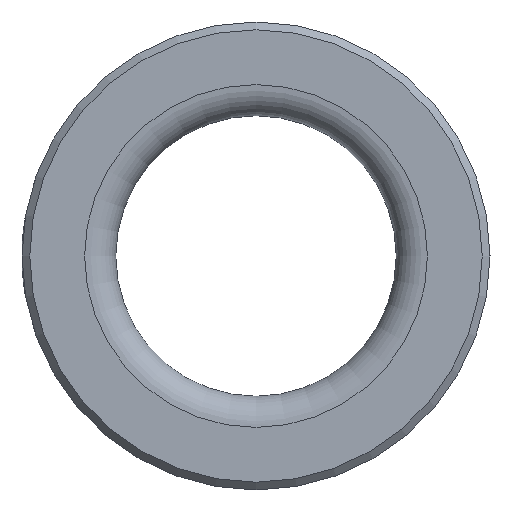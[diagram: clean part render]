
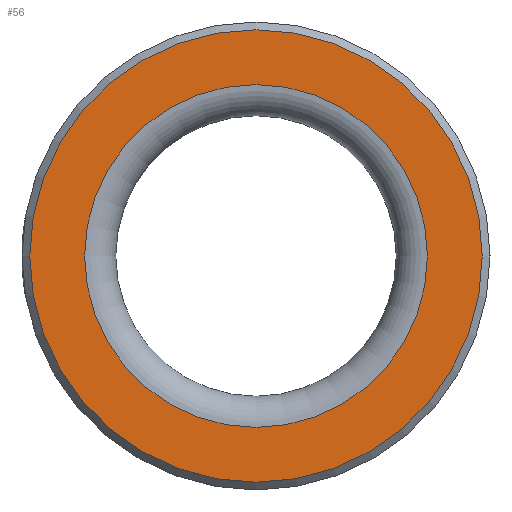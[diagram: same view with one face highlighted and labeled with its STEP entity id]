
A CAD part, left-side view. The second image highlights one B-rep face of the part: STEP entity #56.
In plain terms, the highlighted planar face has unit normal (-1, 0, 0).
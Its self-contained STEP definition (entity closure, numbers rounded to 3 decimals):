
#56 = ADVANCED_FACE( '', ( #122, #123 ), #124, .T. );
#122 = FACE_BOUND( '', #195, .T. );
#123 = FACE_OUTER_BOUND( '', #196, .T. );
#124 = PLANE( '', #197 );
#195 = EDGE_LOOP( '', ( #278 ) );
#196 = EDGE_LOOP( '', ( #279 ) );
#197 = AXIS2_PLACEMENT_3D( '', #280, #281, #282 );
#278 = ORIENTED_EDGE( '', *, *, #337, .T. );
#279 = ORIENTED_EDGE( '', *, *, #347, .F. );
#280 = CARTESIAN_POINT( '', ( -60., 14.52, 0. ) );
#281 = DIRECTION( '', ( -1., 0., 0. ) );
#282 = DIRECTION( '', ( 0., 0., 1. ) );
#337 = EDGE_CURVE( '', #377, #377, #378, .T. );
#347 = EDGE_CURVE( '', #392, #392, #393, .T. );
#377 = VERTEX_POINT( '', #476 );
#378 = CIRCLE( '', #477, 11. );
#392 = VERTEX_POINT( '', #491 );
#393 = CIRCLE( '', #492, 14.52 );
#476 = CARTESIAN_POINT( '', ( -60., 0., -11. ) );
#477 = AXIS2_PLACEMENT_3D( '', #585, #586, #587 );
#491 = CARTESIAN_POINT( '', ( -60., 0., -14.52 ) );
#492 = AXIS2_PLACEMENT_3D( '', #600, #601, #602 );
#585 = CARTESIAN_POINT( '', ( -60., 0., 0. ) );
#586 = DIRECTION( '', ( 1., 0., 0. ) );
#587 = DIRECTION( '', ( 0., 0., -1. ) );
#600 = CARTESIAN_POINT( '', ( -60., 0., 0. ) );
#601 = DIRECTION( '', ( 1., 0., 0. ) );
#602 = DIRECTION( '', ( 0., 0., -1. ) );
